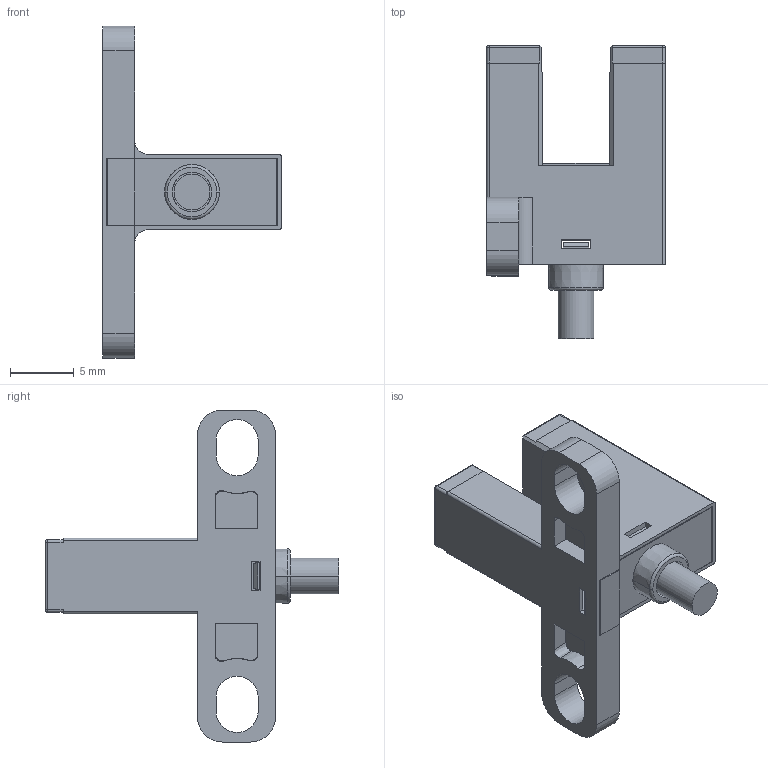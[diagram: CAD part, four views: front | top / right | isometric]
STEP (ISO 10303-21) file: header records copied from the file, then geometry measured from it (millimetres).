
FILE_DESCRIPTION((''),'2;1');
FILE_NAME('T45_ASM','2018-07-14T17:30:15',('Administrator'),(''),'CREO PARAMETRIC BY PTC INC, 2016390','CREO PARAMETRIC BY PTC INC, 2016390','');
FILE_SCHEMA(('CONFIG_CONTROL_DESIGN'));
Length unit declared in the file: millimetre
Products named in the file (3): MFG0001_REF_5; MFG0001_REF_2_7; T45_ASM
Assembly tree (2 placements, depth 2):
  T45_ASM
    MFG0001_REF_5
    MFG0001_REF_2_7
Bounding box: 14 x 22.98 x 26 mm (x, y, z)
Volume: 638.7 mm3; surface area: 2145.3 mm2
Topology: 3 solids, 3 shells, 188 faces, 525 edges, 350 vertices
Faces by surface type: plane 144, cylinder 28, bspline 8, cone 6, torus 2
Entity records: 6365 total; most frequent: CARTESIAN_POINT 1398, ORIENTED_EDGE 1050, DIRECTION 955, EDGE_CURVE 525, VECTOR 425, LINE 425, VERTEX_POINT 350, AXIS2_PLACEMENT_3D 265
